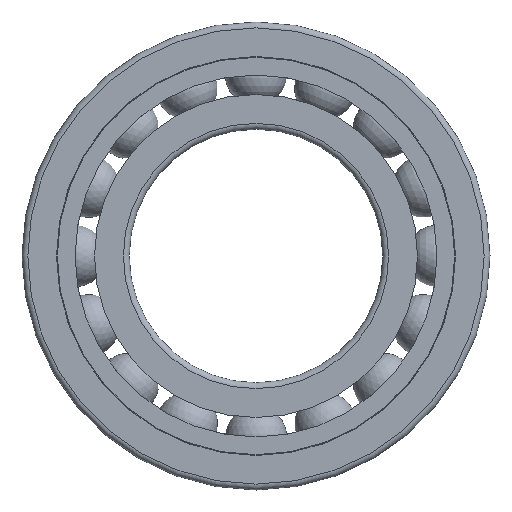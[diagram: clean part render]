
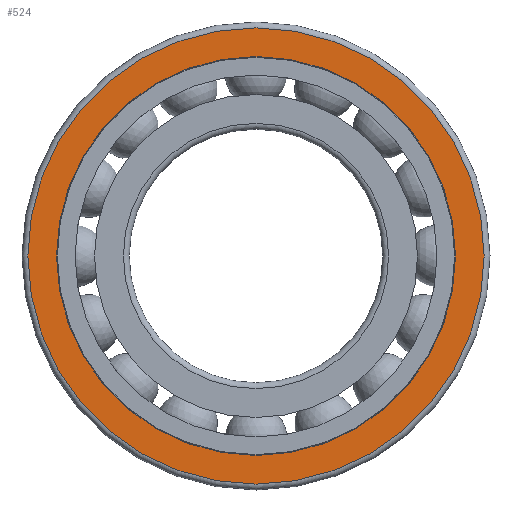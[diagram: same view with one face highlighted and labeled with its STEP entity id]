
A CAD part, left-side view. The second image highlights one B-rep face of the part: STEP entity #524.
In plain terms, the highlighted planar face has unit normal (-1, 0, 0).
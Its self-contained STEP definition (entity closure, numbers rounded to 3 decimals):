
#133=PLANE('',#817);
#265=EDGE_LOOP('',(#369));
#266=EDGE_LOOP('',(#370));
#369=ORIENTED_EDGE('',*,*,#416,.F.);
#370=ORIENTED_EDGE('',*,*,#422,.T.);
#416=EDGE_CURVE('',#738,#738,#436,.T.);
#422=EDGE_CURVE('',#744,#744,#442,.T.);
#436=CIRCLE('',#803,58.5);
#442=CIRCLE('',#815,51.15);
#524=ADVANCED_FACE('',(#659,#660),#133,.F.);
#659=FACE_BOUND('',#265,.T.);
#660=FACE_BOUND('',#266,.T.);
#738=VERTEX_POINT('',#1652);
#744=VERTEX_POINT('',#1670);
#803=AXIS2_PLACEMENT_3D('',#1651,#926,#927);
#815=AXIS2_PLACEMENT_3D('',#1669,#950,#951);
#817=AXIS2_PLACEMENT_3D('',#1672,#954,#955);
#926=DIRECTION('',(1.,0.,0.));
#927=DIRECTION('',(0.,0.,-1.));
#950=DIRECTION('',(1.,0.,0.));
#951=DIRECTION('',(0.,0.,-1.));
#954=DIRECTION('',(1.,0.,0.));
#955=DIRECTION('',(0.,0.,-1.));
#1651=CARTESIAN_POINT('',(-11.5,0.,0.));
#1652=CARTESIAN_POINT('',(-11.5,0.,-58.5));
#1669=CARTESIAN_POINT('',(-11.5,0.,0.));
#1670=CARTESIAN_POINT('',(-11.5,0.,-51.15));
#1672=CARTESIAN_POINT('',(-11.5,0.,51.15));
